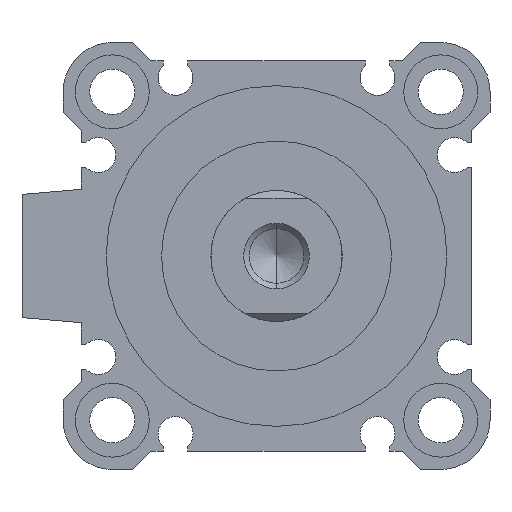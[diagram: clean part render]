
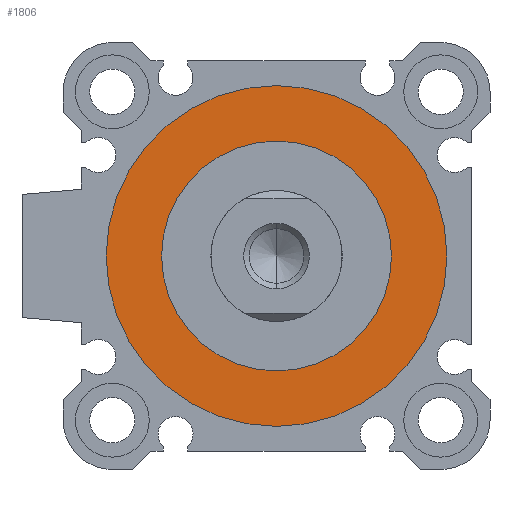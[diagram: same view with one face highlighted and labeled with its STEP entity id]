
A CAD part, left-side view. The second image highlights one B-rep face of the part: STEP entity #1806.
In plain terms, the highlighted planar face has unit normal (-1, 0, 0).
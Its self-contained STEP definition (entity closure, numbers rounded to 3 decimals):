
#33 = DIRECTION ( 'NONE',  ( 0., 0., -1. ) ) ;
#173 = ORIENTED_EDGE ( 'NONE', *, *, #1393, .T. ) ;
#175 = DIRECTION ( 'NONE',  ( 1., 0., 0. ) ) ;
#335 = ORIENTED_EDGE ( 'NONE', *, *, #1162, .T. ) ;
#1011 = AXIS2_PLACEMENT_3D ( 'NONE', #4865, #2865, #4421 ) ;
#1162 = EDGE_CURVE ( 'NONE', #2098, #2119, #3853, .T. ) ;
#1298 = CARTESIAN_POINT ( 'NONE',  ( 3.3, 0., -20.75 ) ) ;
#1393 = EDGE_CURVE ( 'NONE', #2119, #2098, #3829, .T. ) ;
#1486 = FACE_OUTER_BOUND ( 'NONE', #4369, .T. ) ;
#1631 = AXIS2_PLACEMENT_3D ( 'NONE', #4993, #2670, #1859 ) ;
#1697 = DIRECTION ( 'NONE',  ( 0., 0., -1. ) ) ;
#1806 = ADVANCED_FACE ( 'NONE', ( #1486, #4687 ), #3107, .F. ) ;
#1859 = DIRECTION ( 'NONE',  ( 0., 0., -1. ) ) ;
#1958 = DIRECTION ( 'NONE',  ( 1., 0., 0. ) ) ;
#2055 = AXIS2_PLACEMENT_3D ( 'NONE', #4790, #1958, #33 ) ;
#2098 = VERTEX_POINT ( 'NONE', #4083 ) ;
#2119 = VERTEX_POINT ( 'NONE', #4130 ) ;
#2305 = CIRCLE ( 'NONE', #1011, 20.75 ) ;
#2322 = EDGE_CURVE ( 'NONE', #4429, #4364, #2305, .T. ) ;
#2581 = AXIS2_PLACEMENT_3D ( 'NONE', #3331, #175, #1697 ) ;
#2670 = DIRECTION ( 'NONE',  ( 1., 0., 0. ) ) ;
#2865 = DIRECTION ( 'NONE',  ( 1., 0., 0. ) ) ;
#3038 = CARTESIAN_POINT ( 'NONE',  ( 3.3, 0., 0. ) ) ;
#3070 = EDGE_LOOP ( 'NONE', ( #335, #173 ) ) ;
#3107 = PLANE ( 'NONE',  #3799 ) ;
#3130 = DIRECTION ( 'NONE',  ( 0., 1., 0. ) ) ;
#3195 = ORIENTED_EDGE ( 'NONE', *, *, #4954, .F. ) ;
#3331 = CARTESIAN_POINT ( 'NONE',  ( 3.3, 0., 0. ) ) ;
#3799 = AXIS2_PLACEMENT_3D ( 'NONE', #3038, #4282, #3130 ) ;
#3829 = CIRCLE ( 'NONE', #1631, 14. ) ;
#3853 = CIRCLE ( 'NONE', #2055, 14. ) ;
#3993 = CARTESIAN_POINT ( 'NONE',  ( 3.3, 0., 20.75 ) ) ;
#4083 = CARTESIAN_POINT ( 'NONE',  ( 3.3, 0., 14. ) ) ;
#4121 = CIRCLE ( 'NONE', #2581, 20.75 ) ;
#4130 = CARTESIAN_POINT ( 'NONE',  ( 3.3, 0., -14. ) ) ;
#4282 = DIRECTION ( 'NONE',  ( 1., 0., 0. ) ) ;
#4364 = VERTEX_POINT ( 'NONE', #3993 ) ;
#4369 = EDGE_LOOP ( 'NONE', ( #3195, #4372 ) ) ;
#4372 = ORIENTED_EDGE ( 'NONE', *, *, #2322, .F. ) ;
#4421 = DIRECTION ( 'NONE',  ( 0., 0., -1. ) ) ;
#4429 = VERTEX_POINT ( 'NONE', #1298 ) ;
#4687 = FACE_BOUND ( 'NONE', #3070, .T. ) ;
#4790 = CARTESIAN_POINT ( 'NONE',  ( 3.3, 0., 0. ) ) ;
#4865 = CARTESIAN_POINT ( 'NONE',  ( 3.3, 0., 0. ) ) ;
#4954 = EDGE_CURVE ( 'NONE', #4364, #4429, #4121, .T. ) ;
#4993 = CARTESIAN_POINT ( 'NONE',  ( 3.3, 0., 0. ) ) ;
